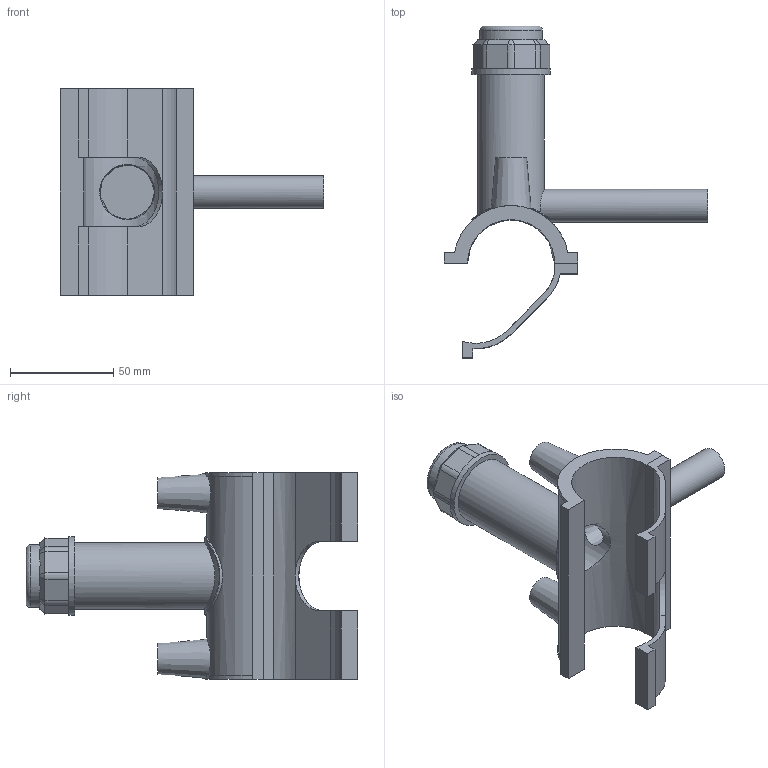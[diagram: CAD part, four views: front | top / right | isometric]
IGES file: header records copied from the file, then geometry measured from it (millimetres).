
Global section: file name: 5963BU03013005.ipt; native system: Autodesk Inventor 2019; preprocessor: unknown; author: KIM; date: 20210830.101436; units: millimetre
Bounding box: 127.25 x 160.41 x 100.08 mm (x, y, z)
Volume: 123147.5 mm3; surface area: 59838 mm2
Topology: 2 solids, 2 shells, 108 faces, 277 edges, 181 vertices
Faces by surface type: plane 65, cylinder 22, revolution 10, cone 10, bspline 1
Full cylindrical faces by diameter (mm): 4 x2, 15.8 x1, 30.312 x1, 32.206 x1, 37.89 x2
